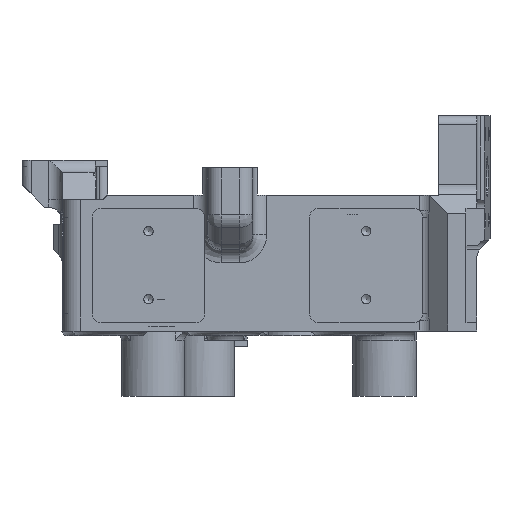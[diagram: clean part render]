
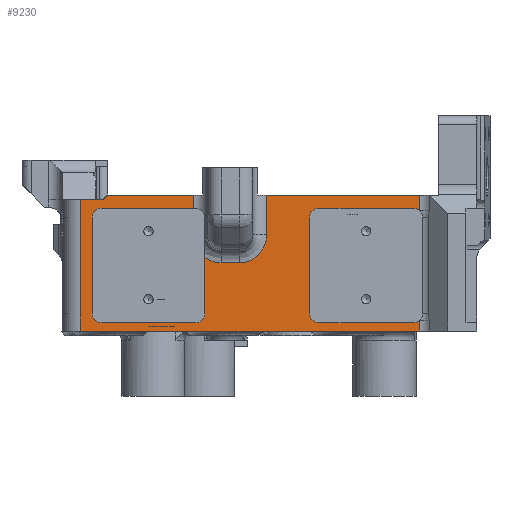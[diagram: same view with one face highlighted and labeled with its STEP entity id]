
A CAD part, front view. The second image highlights one B-rep face of the part: STEP entity #9230.
In plain terms, the highlighted planar face has unit normal (0, -1, 0).
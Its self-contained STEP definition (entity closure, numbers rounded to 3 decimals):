
#9230=ADVANCED_FACE('',(#11794),#10801,.F.);
#10801=PLANE('',#44627);
#11794=FACE_OUTER_BOUND('',#13772,.T.);
#13772=EDGE_LOOP('',(#19041,#19042,#19043,#19044,#19045,#19046,#19047,#19048,
#19049,#19050,#19051,#19052,#19053,#19054,#19055,#19056,#19057,#19058,#19059,
#19060,#19061,#19062,#19063,#19064,#19065,#19066,#19067,#19068,#19069));
#19041=ORIENTED_EDGE('',*,*,#28578,.F.);
#19042=ORIENTED_EDGE('',*,*,#30273,.T.);
#19043=ORIENTED_EDGE('',*,*,#30274,.T.);
#19044=ORIENTED_EDGE('',*,*,#30275,.T.);
#19045=ORIENTED_EDGE('',*,*,#30276,.T.);
#19046=ORIENTED_EDGE('',*,*,#30277,.F.);
#19047=ORIENTED_EDGE('',*,*,#30278,.T.);
#19048=ORIENTED_EDGE('',*,*,#30279,.F.);
#19049=ORIENTED_EDGE('',*,*,#30280,.T.);
#19050=ORIENTED_EDGE('',*,*,#30281,.F.);
#19051=ORIENTED_EDGE('',*,*,#30282,.T.);
#19052=ORIENTED_EDGE('',*,*,#30283,.F.);
#19053=ORIENTED_EDGE('',*,*,#30284,.T.);
#19054=ORIENTED_EDGE('',*,*,#28572,.F.);
#19055=ORIENTED_EDGE('',*,*,#30285,.T.);
#19056=ORIENTED_EDGE('',*,*,#30286,.F.);
#19057=ORIENTED_EDGE('',*,*,#30287,.T.);
#19058=ORIENTED_EDGE('',*,*,#28746,.T.);
#19059=ORIENTED_EDGE('',*,*,#30288,.T.);
#19060=ORIENTED_EDGE('',*,*,#30289,.T.);
#19061=ORIENTED_EDGE('',*,*,#30290,.T.);
#19062=ORIENTED_EDGE('',*,*,#30291,.T.);
#19063=ORIENTED_EDGE('',*,*,#30292,.F.);
#19064=ORIENTED_EDGE('',*,*,#30293,.T.);
#19065=ORIENTED_EDGE('',*,*,#30294,.F.);
#19066=ORIENTED_EDGE('',*,*,#30295,.T.);
#19067=ORIENTED_EDGE('',*,*,#30296,.F.);
#19068=ORIENTED_EDGE('',*,*,#30297,.T.);
#19069=ORIENTED_EDGE('',*,*,#30298,.T.);
#25378=VERTEX_POINT('',#59625);
#25379=VERTEX_POINT('',#59627);
#25384=VERTEX_POINT('',#59637);
#25385=VERTEX_POINT('',#59639);
#25532=VERTEX_POINT('',#60078);
#25533=VERTEX_POINT('',#60080);
#26523=VERTEX_POINT('',#65045);
#26524=VERTEX_POINT('',#65056);
#26525=VERTEX_POINT('',#65058);
#26526=VERTEX_POINT('',#65063);
#26527=VERTEX_POINT('',#65065);
#26528=VERTEX_POINT('',#65067);
#26529=VERTEX_POINT('',#65069);
#26530=VERTEX_POINT('',#65071);
#26531=VERTEX_POINT('',#65073);
#26532=VERTEX_POINT('',#65075);
#26533=VERTEX_POINT('',#65077);
#26534=VERTEX_POINT('',#65080);
#26535=VERTEX_POINT('',#65082);
#26536=VERTEX_POINT('',#65094);
#26537=VERTEX_POINT('',#65096);
#26538=VERTEX_POINT('',#65098);
#26539=VERTEX_POINT('',#65100);
#26540=VERTEX_POINT('',#65102);
#26541=VERTEX_POINT('',#65104);
#26542=VERTEX_POINT('',#65106);
#26543=VERTEX_POINT('',#65108);
#26544=VERTEX_POINT('',#65110);
#26545=VERTEX_POINT('',#65112);
#28572=EDGE_CURVE('',#25378,#25379,#36855,.T.);
#28578=EDGE_CURVE('',#25384,#25385,#36859,.T.);
#28746=EDGE_CURVE('',#25533,#25532,#36940,.T.);
#30273=EDGE_CURVE('',#25384,#26523,#37625,.T.);
#30274=EDGE_CURVE('',#26523,#26524,#33201,.T.);
#30275=EDGE_CURVE('',#26524,#26525,#37626,.T.);
#30276=EDGE_CURVE('',#26525,#26526,#33202,.T.);
#30277=EDGE_CURVE('',#26527,#26526,#37627,.T.);
#30278=EDGE_CURVE('',#26527,#26528,#34723,.T.);
#30279=EDGE_CURVE('',#26529,#26528,#37628,.T.);
#30280=EDGE_CURVE('',#26529,#26530,#34724,.T.);
#30281=EDGE_CURVE('',#26531,#26530,#37629,.T.);
#30282=EDGE_CURVE('',#26531,#26532,#34725,.T.);
#30283=EDGE_CURVE('',#26533,#26532,#37630,.T.);
#30284=EDGE_CURVE('',#26533,#25379,#37631,.T.);
#30285=EDGE_CURVE('',#25378,#26534,#37632,.T.);
#30286=EDGE_CURVE('',#26535,#26534,#37633,.T.);
#30287=EDGE_CURVE('',#26535,#25533,#37634,.T.);
#30288=EDGE_CURVE('',#25532,#26536,#33203,.T.);
#30289=EDGE_CURVE('',#26536,#26537,#37635,.T.);
#30290=EDGE_CURVE('',#26537,#26538,#37636,.T.);
#30291=EDGE_CURVE('',#26538,#26539,#34726,.T.);
#30292=EDGE_CURVE('',#26540,#26539,#37637,.T.);
#30293=EDGE_CURVE('',#26540,#26541,#34727,.T.);
#30294=EDGE_CURVE('',#26542,#26541,#37638,.T.);
#30295=EDGE_CURVE('',#26542,#26543,#34728,.T.);
#30296=EDGE_CURVE('',#26544,#26543,#37639,.T.);
#30297=EDGE_CURVE('',#26544,#26545,#34729,.T.);
#30298=EDGE_CURVE('',#26545,#25385,#37640,.T.);
#33201=B_SPLINE_CURVE_WITH_KNOTS('',3,(#65046,#65047,#65048,#65049,#65050,
#65051,#65052,#65053,#65054,#65055),.UNSPECIFIED.,.F.,.F.,(4,2,2,2,4),(0.,
0.25,0.5,0.75,1.),.UNSPECIFIED.);
#33202=B_SPLINE_CURVE_WITH_KNOTS('',3,(#65059,#65060,#65061,#65062),
 .UNSPECIFIED.,.F.,.F.,(4,4),(0.,1.),.UNSPECIFIED.);
#33203=B_SPLINE_CURVE_WITH_KNOTS('',3,(#65084,#65085,#65086,#65087,#65088,
#65089,#65090,#65091,#65092,#65093),.UNSPECIFIED.,.F.,.F.,(4,2,2,2,4),(0.,
0.25,0.5,0.75,1.),.UNSPECIFIED.);
#34723=CIRCLE('',#44620,10.);
#34724=CIRCLE('',#44621,10.);
#34725=CIRCLE('',#44622,10.);
#34726=CIRCLE('',#44623,10.);
#34727=CIRCLE('',#44624,10.);
#34728=CIRCLE('',#44625,10.);
#34729=CIRCLE('',#44626,10.);
#36855=LINE('',#59626,#39034);
#36859=LINE('',#59638,#39038);
#36940=LINE('',#60079,#39119);
#37625=LINE('',#65044,#39804);
#37626=LINE('',#65057,#39805);
#37627=LINE('',#65064,#39806);
#37628=LINE('',#65068,#39807);
#37629=LINE('',#65072,#39808);
#37630=LINE('',#65076,#39809);
#37631=LINE('',#65078,#39810);
#37632=LINE('',#65079,#39811);
#37633=LINE('',#65081,#39812);
#37634=LINE('',#65083,#39813);
#37635=LINE('',#65095,#39814);
#37636=LINE('',#65097,#39815);
#37637=LINE('',#65101,#39816);
#37638=LINE('',#65105,#39817);
#37639=LINE('',#65109,#39818);
#37640=LINE('',#65113,#39819);
#39034=VECTOR('',#48288,1.);
#39038=VECTOR('',#48296,1.);
#39119=VECTOR('',#48545,1.);
#39804=VECTOR('',#51758,1.);
#39805=VECTOR('',#51759,1.);
#39806=VECTOR('',#51760,1.);
#39807=VECTOR('',#51763,1.);
#39808=VECTOR('',#51766,1.);
#39809=VECTOR('',#51769,1.);
#39810=VECTOR('',#51770,1.);
#39811=VECTOR('',#51771,1.);
#39812=VECTOR('',#51772,1.);
#39813=VECTOR('',#51773,1.);
#39814=VECTOR('',#51774,1.);
#39815=VECTOR('',#51775,1.);
#39816=VECTOR('',#51778,1.);
#39817=VECTOR('',#51781,1.);
#39818=VECTOR('',#51784,1.);
#39819=VECTOR('',#51787,1.);
#44620=AXIS2_PLACEMENT_3D('',#65066,#51761,#51762);
#44621=AXIS2_PLACEMENT_3D('',#65070,#51764,#51765);
#44622=AXIS2_PLACEMENT_3D('',#65074,#51767,#51768);
#44623=AXIS2_PLACEMENT_3D('',#65099,#51776,#51777);
#44624=AXIS2_PLACEMENT_3D('',#65103,#51779,#51780);
#44625=AXIS2_PLACEMENT_3D('',#65107,#51782,#51783);
#44626=AXIS2_PLACEMENT_3D('',#65111,#51785,#51786);
#44627=AXIS2_PLACEMENT_3D('',#65114,#51788,#51789);
#48288=DIRECTION('',(1.,0.,0.));
#48296=DIRECTION('',(1.,0.,0.));
#48545=DIRECTION('',(1.,0.,0.));
#51758=DIRECTION('',(0.,0.,-1.));
#51759=DIRECTION('',(-1.,0.,0.));
#51760=DIRECTION('',(0.,0.,1.));
#51761=DIRECTION('',(0.,1.,0.));
#51762=DIRECTION('',(0.,0.,-1.));
#51763=DIRECTION('',(1.,0.,0.));
#51764=DIRECTION('',(0.,1.,0.));
#51765=DIRECTION('',(0.,0.,-1.));
#51766=DIRECTION('',(0.,0.,-1.));
#51767=DIRECTION('',(0.,1.,0.));
#51768=DIRECTION('',(0.,0.,-1.));
#51769=DIRECTION('',(-1.,0.,0.));
#51770=DIRECTION('',(0.,0.,1.));
#51771=DIRECTION('',(-0.707,0.,-0.707));
#51772=DIRECTION('',(1.,0.,0.));
#51773=DIRECTION('',(0.,0.,-1.));
#51774=DIRECTION('',(1.,0.,0.));
#51775=DIRECTION('',(0.,0.,1.));
#51776=DIRECTION('',(0.,1.,0.));
#51777=DIRECTION('',(0.,0.,-1.));
#51778=DIRECTION('',(1.,0.,0.));
#51779=DIRECTION('',(0.,1.,0.));
#51780=DIRECTION('',(0.,0.,-1.));
#51781=DIRECTION('',(0.,0.,-1.));
#51782=DIRECTION('',(0.,1.,0.));
#51783=DIRECTION('',(0.,0.,-1.));
#51784=DIRECTION('',(-1.,0.,0.));
#51785=DIRECTION('',(0.,1.,0.));
#51786=DIRECTION('',(0.,0.,-1.));
#51787=DIRECTION('',(0.,0.,1.));
#51788=DIRECTION('',(0.,1.,0.));
#51789=DIRECTION('',(0.,0.,-1.));
#59625=CARTESIAN_POINT('',(-455.,-855.,-125.));
#59626=CARTESIAN_POINT('',(0.,-855.,-125.));
#59627=CARTESIAN_POINT('',(-360.,-855.,-125.));
#59637=CARTESIAN_POINT('',(-280.,-855.,-125.));
#59638=CARTESIAN_POINT('',(0.,-855.,-125.));
#59639=CARTESIAN_POINT('',(-111.213,-855.,-125.));
#60078=CARTESIAN_POINT('',(-345.151,-855.,-275.));
#60079=CARTESIAN_POINT('',(0.,-855.,-275.));
#60080=CARTESIAN_POINT('',(-485.,-855.,-275.));
#65044=CARTESIAN_POINT('',(-280.,-855.,-125.));
#65045=CARTESIAN_POINT('',(-280.,-855.,-168.77));
#65046=CARTESIAN_POINT('',(-280.,-855.,-168.77));
#65047=CARTESIAN_POINT('',(-280.,-855.,-172.814));
#65048=CARTESIAN_POINT('',(-280.627,-855.,-176.836));
#65049=CARTESIAN_POINT('',(-283.488,-855.,-184.318));
#65050=CARTESIAN_POINT('',(-285.663,-855.,-187.762));
#65051=CARTESIAN_POINT('',(-291.255,-855.,-193.579));
#65052=CARTESIAN_POINT('',(-294.558,-855.,-195.862));
#65053=CARTESIAN_POINT('',(-301.996,-855.,-199.036));
#65054=CARTESIAN_POINT('',(-305.952,-855.,-199.846));
#65055=CARTESIAN_POINT('',(-310.,-855.,-199.846));
#65056=CARTESIAN_POINT('',(-310.,-855.,-199.846));
#65057=CARTESIAN_POINT('',(0.,-855.,-199.846));
#65058=CARTESIAN_POINT('',(-330.,-855.,-199.846));
#65059=CARTESIAN_POINT('',(-330.,-855.,-199.846));
#65060=CARTESIAN_POINT('',(-336.409,-855.,-199.846));
#65061=CARTESIAN_POINT('',(-342.724,-855.,-197.728));
#65062=CARTESIAN_POINT('',(-347.8,-855.,-193.963));
#65063=CARTESIAN_POINT('',(-347.8,-855.,-193.963));
#65064=CARTESIAN_POINT('',(-347.8,-855.,-125.));
#65065=CARTESIAN_POINT('',(-347.8,-855.,-255.7));
#65066=CARTESIAN_POINT('',(-357.8,-855.,-255.7));
#65067=CARTESIAN_POINT('',(-357.8,-855.,-265.7));
#65068=CARTESIAN_POINT('',(0.,-855.,-265.7));
#65069=CARTESIAN_POINT('',(-462.2,-855.,-265.7));
#65070=CARTESIAN_POINT('',(-462.2,-855.,-255.7));
#65071=CARTESIAN_POINT('',(-472.2,-855.,-255.7));
#65072=CARTESIAN_POINT('',(-472.2,-855.,-125.));
#65073=CARTESIAN_POINT('',(-472.2,-855.,-149.8));
#65074=CARTESIAN_POINT('',(-462.2,-855.,-149.8));
#65075=CARTESIAN_POINT('',(-462.2,-855.,-139.8));
#65076=CARTESIAN_POINT('',(0.,-855.,-139.8));
#65077=CARTESIAN_POINT('',(-360.,-855.,-139.8));
#65078=CARTESIAN_POINT('',(-360.,-855.,-125.));
#65079=CARTESIAN_POINT('',(-455.,-855.,-125.));
#65080=CARTESIAN_POINT('',(-460.,-855.,-130.));
#65081=CARTESIAN_POINT('',(0.,-855.,-130.));
#65082=CARTESIAN_POINT('',(-485.,-855.,-130.));
#65083=CARTESIAN_POINT('',(-485.,-855.,-125.));
#65084=CARTESIAN_POINT('',(-345.151,-855.,-275.));
#65085=CARTESIAN_POINT('',(-341.951,-855.,-275.));
#65086=CARTESIAN_POINT('',(-338.763,-855.,-275.257));
#65087=CARTESIAN_POINT('',(-332.385,-855.,-275.717));
#65088=CARTESIAN_POINT('',(-329.191,-855.,-275.907));
#65089=CARTESIAN_POINT('',(-322.796,-855.,-275.906));
#65090=CARTESIAN_POINT('',(-319.607,-855.,-275.716));
#65091=CARTESIAN_POINT('',(-313.232,-855.,-275.257));
#65092=CARTESIAN_POINT('',(-310.046,-855.,-275.));
#65093=CARTESIAN_POINT('',(-306.849,-855.,-275.));
#65094=CARTESIAN_POINT('',(-306.849,-855.,-275.));
#65095=CARTESIAN_POINT('',(0.,-855.,-275.));
#65096=CARTESIAN_POINT('',(-111.213,-855.,-275.));
#65097=CARTESIAN_POINT('',(-111.213,-855.,-125.));
#65098=CARTESIAN_POINT('',(-111.213,-855.,-263.224));
#65099=CARTESIAN_POINT('',(-117.8,-855.,-255.7));
#65100=CARTESIAN_POINT('',(-117.8,-855.,-265.7));
#65101=CARTESIAN_POINT('',(0.,-855.,-265.7));
#65102=CARTESIAN_POINT('',(-222.2,-855.,-265.7));
#65103=CARTESIAN_POINT('',(-222.2,-855.,-255.7));
#65104=CARTESIAN_POINT('',(-232.2,-855.,-255.7));
#65105=CARTESIAN_POINT('',(-232.2,-855.,-125.));
#65106=CARTESIAN_POINT('',(-232.2,-855.,-149.8));
#65107=CARTESIAN_POINT('',(-222.2,-855.,-149.8));
#65108=CARTESIAN_POINT('',(-222.2,-855.,-139.8));
#65109=CARTESIAN_POINT('',(0.,-855.,-139.8));
#65110=CARTESIAN_POINT('',(-117.8,-855.,-139.8));
#65111=CARTESIAN_POINT('',(-117.8,-855.,-149.8));
#65112=CARTESIAN_POINT('',(-111.213,-855.,-142.276));
#65113=CARTESIAN_POINT('',(-111.213,-855.,-125.));
#65114=CARTESIAN_POINT('',(0.,-855.,-125.));
